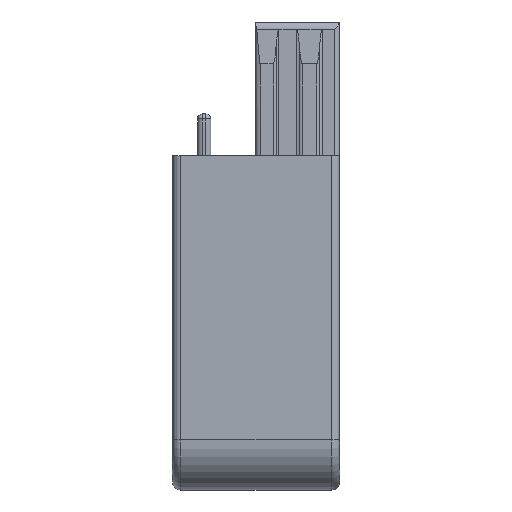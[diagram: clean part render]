
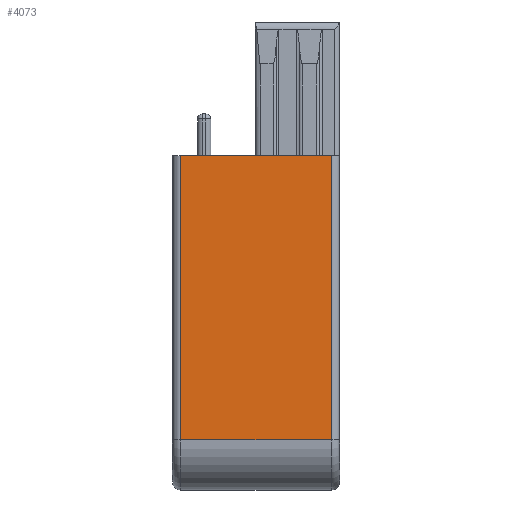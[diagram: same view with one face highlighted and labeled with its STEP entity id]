
A CAD part, left-side view. The second image highlights one B-rep face of the part: STEP entity #4073.
In plain terms, the highlighted planar face has unit normal (-1, 0, 0).
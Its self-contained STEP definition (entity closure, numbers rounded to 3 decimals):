
#302 = EDGE_CURVE ( 'NONE', #7308, #6326, #8995, .T. ) ;
#383 = CARTESIAN_POINT ( 'NONE',  ( -11., 9.5, 42. ) ) ;
#765 = VECTOR ( 'NONE', #3217, 1000. ) ;
#1001 = ORIENTED_EDGE ( 'NONE', *, *, #10409, .F. ) ;
#1107 = DIRECTION ( 'NONE',  ( 0., 1., 0. ) ) ;
#1560 = FACE_OUTER_BOUND ( 'NONE', #5204, .T. ) ;
#1683 = DIRECTION ( 'NONE',  ( 1., 0., 0. ) ) ;
#3217 = DIRECTION ( 'NONE',  ( 0., 0., -1. ) ) ;
#3248 = DIRECTION ( 'NONE',  ( 0., -1., 0. ) ) ;
#3596 = EDGE_CURVE ( 'NONE', #7308, #4638, #4245, .T. ) ;
#3746 = VECTOR ( 'NONE', #3248, 1000. ) ;
#3829 = CARTESIAN_POINT ( 'NONE',  ( -11., 0.5, 42. ) ) ;
#4073 = ADVANCED_FACE ( 'NONE', ( #1560 ), #5426, .F. ) ;
#4153 = EDGE_CURVE ( 'NONE', #4500, #4638, #10723, .T. ) ;
#4245 = LINE ( 'NONE', #383, #10480 ) ;
#4300 = CARTESIAN_POINT ( 'NONE',  ( -11., 0.5, 42. ) ) ;
#4332 = ORIENTED_EDGE ( 'NONE', *, *, #3596, .T. ) ;
#4500 = VERTEX_POINT ( 'NONE', #7771 ) ;
#4536 = CARTESIAN_POINT ( 'NONE',  ( -11., 0.5, 42. ) ) ;
#4638 = VERTEX_POINT ( 'NONE', #10490 ) ;
#4847 = CARTESIAN_POINT ( 'NONE',  ( -11., 0., 25. ) ) ;
#5204 = EDGE_LOOP ( 'NONE', ( #4332, #12137, #1001, #11937 ) ) ;
#5426 = PLANE ( 'NONE',  #5664 ) ;
#5664 = AXIS2_PLACEMENT_3D ( 'NONE', #4536, #1683, #7493 ) ;
#6190 = LINE ( 'NONE', #4300, #765 ) ;
#6326 = VERTEX_POINT ( 'NONE', #3829 ) ;
#7136 = CARTESIAN_POINT ( 'NONE',  ( -11., 9.5, 42. ) ) ;
#7308 = VERTEX_POINT ( 'NONE', #7136 ) ;
#7493 = DIRECTION ( 'NONE',  ( 0., 1., 0. ) ) ;
#7771 = CARTESIAN_POINT ( 'NONE',  ( -11., 0.5, 25. ) ) ;
#8995 = LINE ( 'NONE', #11906, #3746 ) ;
#10409 = EDGE_CURVE ( 'NONE', #6326, #4500, #6190, .T. ) ;
#10480 = VECTOR ( 'NONE', #11001, 1000. ) ;
#10490 = CARTESIAN_POINT ( 'NONE',  ( -11., 9.5, 25. ) ) ;
#10723 = LINE ( 'NONE', #4847, #11709 ) ;
#11001 = DIRECTION ( 'NONE',  ( 0., 0., -1. ) ) ;
#11709 = VECTOR ( 'NONE', #1107, 1000. ) ;
#11906 = CARTESIAN_POINT ( 'NONE',  ( -11., 0.5, 42. ) ) ;
#11937 = ORIENTED_EDGE ( 'NONE', *, *, #302, .F. ) ;
#12137 = ORIENTED_EDGE ( 'NONE', *, *, #4153, .F. ) ;
